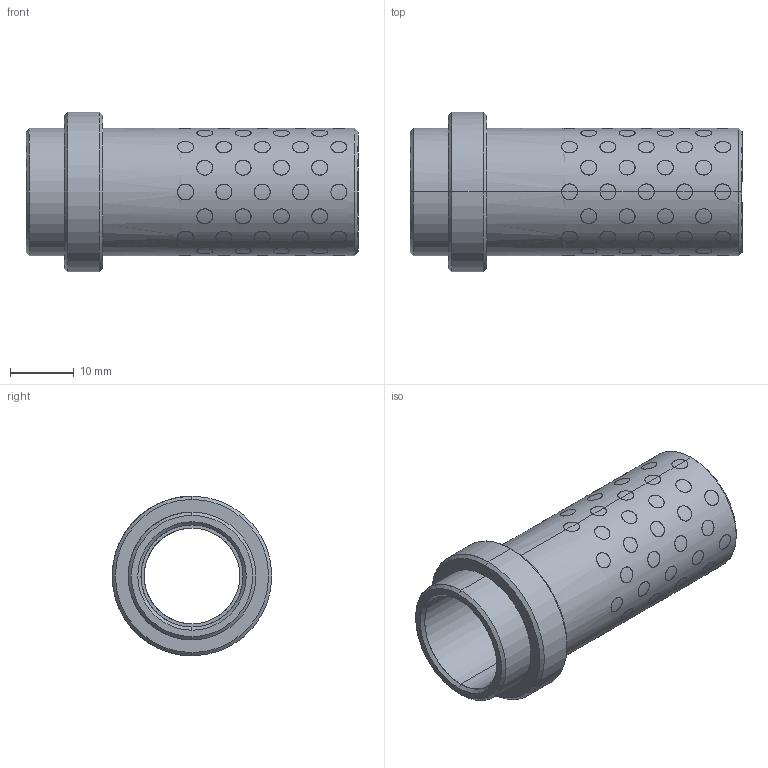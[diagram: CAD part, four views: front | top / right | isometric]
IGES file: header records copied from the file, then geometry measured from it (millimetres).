
Start section: START RECORD GO HERE.
Global section: file name: G31215046.igs; native system: DASSAULT SYSTEMES CATIA V5 R20 - www.3ds.com; preprocessor: CATIA Version 5 Release 20 ; author: r.borello; organization: CFTORINO; date: 20190624.121851; units: millimetre
Bounding box: 52 x 25 x 25 mm (x, y, z)
Surface area: 9222.6 mm2 (no closed solid volume)
Topology: 0 solids, 0 shells, 479 faces, 2076 edges, 2076 vertices
Faces by surface type: revolution 474, plane 5
